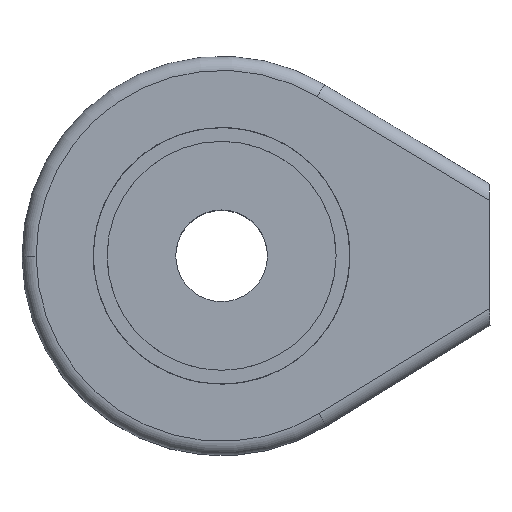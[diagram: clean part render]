
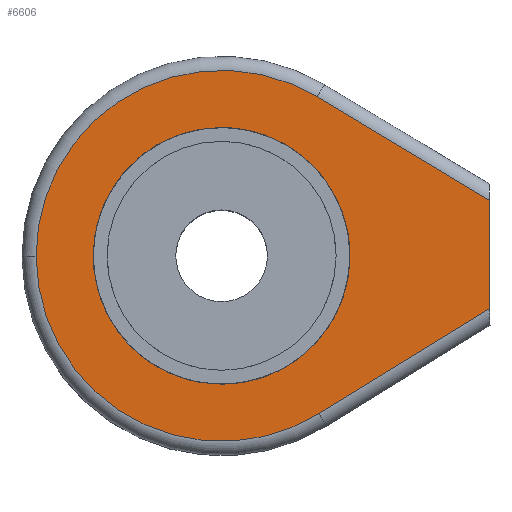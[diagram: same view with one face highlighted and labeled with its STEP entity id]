
A CAD part, top view. The second image highlights one B-rep face of the part: STEP entity #6606.
In plain terms, the highlighted planar face has unit normal (0, 0, 1).
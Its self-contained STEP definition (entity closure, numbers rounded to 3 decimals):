
#347 = DIRECTION ( 'NONE',  ( 0., 0., 1. ) ) ;
#482 = CARTESIAN_POINT ( 'NONE',  ( 6.837, 11.233, 8.57 ) ) ;
#495 = DIRECTION ( 'NONE',  ( 0., 0., -1. ) ) ;
#779 = LINE ( 'NONE', #9132, #1393 ) ;
#898 = ORIENTED_EDGE ( 'NONE', *, *, #5500, .T. ) ;
#1367 = DIRECTION ( 'NONE',  ( -0.854, 0.52, 0. ) ) ;
#1393 = VECTOR ( 'NONE', #5342, 1000. ) ;
#1520 = DIRECTION ( 'NONE',  ( 1., 0., 0. ) ) ;
#1567 = VERTEX_POINT ( 'NONE', #482 ) ;
#1661 = DIRECTION ( 'NONE',  ( 0., 0., 1. ) ) ;
#1980 = CIRCLE ( 'NONE', #8368, 13.15 ) ;
#2168 = VERTEX_POINT ( 'NONE', #8244 ) ;
#2460 = LINE ( 'NONE', #8688, #7459 ) ;
#2619 = EDGE_CURVE ( 'NONE', #9769, #1567, #6681, .T. ) ;
#2763 = FACE_BOUND ( 'NONE', #5851, .T. ) ;
#2920 = ORIENTED_EDGE ( 'NONE', *, *, #9659, .F. ) ;
#3118 = DIRECTION ( 'NONE',  ( 0., 0., 1. ) ) ;
#3649 = ORIENTED_EDGE ( 'NONE', *, *, #2619, .T. ) ;
#3707 = CARTESIAN_POINT ( 'NONE',  ( 0., 0., 8.57 ) ) ;
#4018 = DIRECTION ( 'NONE',  ( 0.854, 0.52, 0. ) ) ;
#4543 = DIRECTION ( 'NONE',  ( -1., 0., 0. ) ) ;
#4607 = CARTESIAN_POINT ( 'NONE',  ( 6.837, -11.233, 8.57 ) ) ;
#4733 = VERTEX_POINT ( 'NONE', #6766 ) ;
#4812 = VECTOR ( 'NONE', #1367, 1000. ) ;
#4940 = AXIS2_PLACEMENT_3D ( 'NONE', #3707, #8327, #1520 ) ;
#4968 = CARTESIAN_POINT ( 'NONE',  ( -9.1, 0., 8.57 ) ) ;
#5076 = CARTESIAN_POINT ( 'NONE',  ( 6.837, 11.233, 8.57 ) ) ;
#5213 = ORIENTED_EDGE ( 'NONE', *, *, #7637, .F. ) ;
#5342 = DIRECTION ( 'NONE',  ( 0., 1., 0. ) ) ;
#5500 = EDGE_CURVE ( 'NONE', #2168, #6139, #7660, .T. ) ;
#5776 = ORIENTED_EDGE ( 'NONE', *, *, #5797, .T. ) ;
#5797 = EDGE_CURVE ( 'NONE', #6139, #9462, #2460, .T. ) ;
#5851 = EDGE_LOOP ( 'NONE', ( #5213, #2920 ) ) ;
#5948 = ORIENTED_EDGE ( 'NONE', *, *, #6128, .T. ) ;
#5951 = FACE_OUTER_BOUND ( 'NONE', #6536, .T. ) ;
#6128 = EDGE_CURVE ( 'NONE', #9462, #9769, #779, .T. ) ;
#6139 = VERTEX_POINT ( 'NONE', #4607 ) ;
#6355 = ORIENTED_EDGE ( 'NONE', *, *, #8951, .T. ) ;
#6536 = EDGE_LOOP ( 'NONE', ( #5948, #3649, #6355, #898, #5776 ) ) ;
#6606 = ADVANCED_FACE ( 'NONE', ( #5951, #2763 ), #7367, .F. ) ;
#6676 = AXIS2_PLACEMENT_3D ( 'NONE', #8102, #495, #7312 ) ;
#6681 = LINE ( 'NONE', #5076, #4812 ) ;
#6766 = CARTESIAN_POINT ( 'NONE',  ( 9.1, 0., 8.57 ) ) ;
#6790 = CARTESIAN_POINT ( 'NONE',  ( 0., 0., 8.57 ) ) ;
#7222 = CARTESIAN_POINT ( 'NONE',  ( 0., 0., 8.57 ) ) ;
#7306 = VERTEX_POINT ( 'NONE', #4968 ) ;
#7312 = DIRECTION ( 'NONE',  ( -1., 0., 0. ) ) ;
#7367 = PLANE ( 'NONE',  #6676 ) ;
#7459 = VECTOR ( 'NONE', #4018, 1000. ) ;
#7519 = CARTESIAN_POINT ( 'NONE',  ( 0., 0., 8.57 ) ) ;
#7600 = CIRCLE ( 'NONE', #8844, 9.1 ) ;
#7637 = EDGE_CURVE ( 'NONE', #7306, #4733, #8290, .T. ) ;
#7660 = CIRCLE ( 'NONE', #8156, 13.15 ) ;
#7927 = CARTESIAN_POINT ( 'NONE',  ( 19., -3.829, 8.57 ) ) ;
#8102 = CARTESIAN_POINT ( 'NONE',  ( 0., 0., 8.57 ) ) ;
#8156 = AXIS2_PLACEMENT_3D ( 'NONE', #6790, #1661, #4543 ) ;
#8157 = CARTESIAN_POINT ( 'NONE',  ( 19., 3.829, 8.57 ) ) ;
#8244 = CARTESIAN_POINT ( 'NONE',  ( -13.15, 0., 8.57 ) ) ;
#8290 = CIRCLE ( 'NONE', #4940, 9.1 ) ;
#8327 = DIRECTION ( 'NONE',  ( 0., 0., 1. ) ) ;
#8368 = AXIS2_PLACEMENT_3D ( 'NONE', #7519, #3118, #9809 ) ;
#8688 = CARTESIAN_POINT ( 'NONE',  ( 6.837, -11.233, 8.57 ) ) ;
#8844 = AXIS2_PLACEMENT_3D ( 'NONE', #7222, #347, #9355 ) ;
#8951 = EDGE_CURVE ( 'NONE', #1567, #2168, #1980, .T. ) ;
#9132 = CARTESIAN_POINT ( 'NONE',  ( 19., 5., 8.57 ) ) ;
#9355 = DIRECTION ( 'NONE',  ( 1., 0., 0. ) ) ;
#9462 = VERTEX_POINT ( 'NONE', #7927 ) ;
#9659 = EDGE_CURVE ( 'NONE', #4733, #7306, #7600, .T. ) ;
#9769 = VERTEX_POINT ( 'NONE', #8157 ) ;
#9809 = DIRECTION ( 'NONE',  ( -1., 0., 0. ) ) ;
